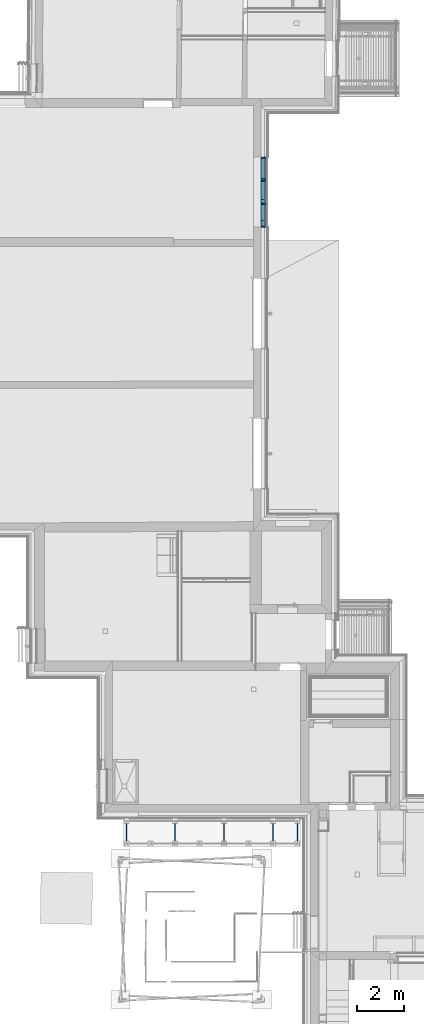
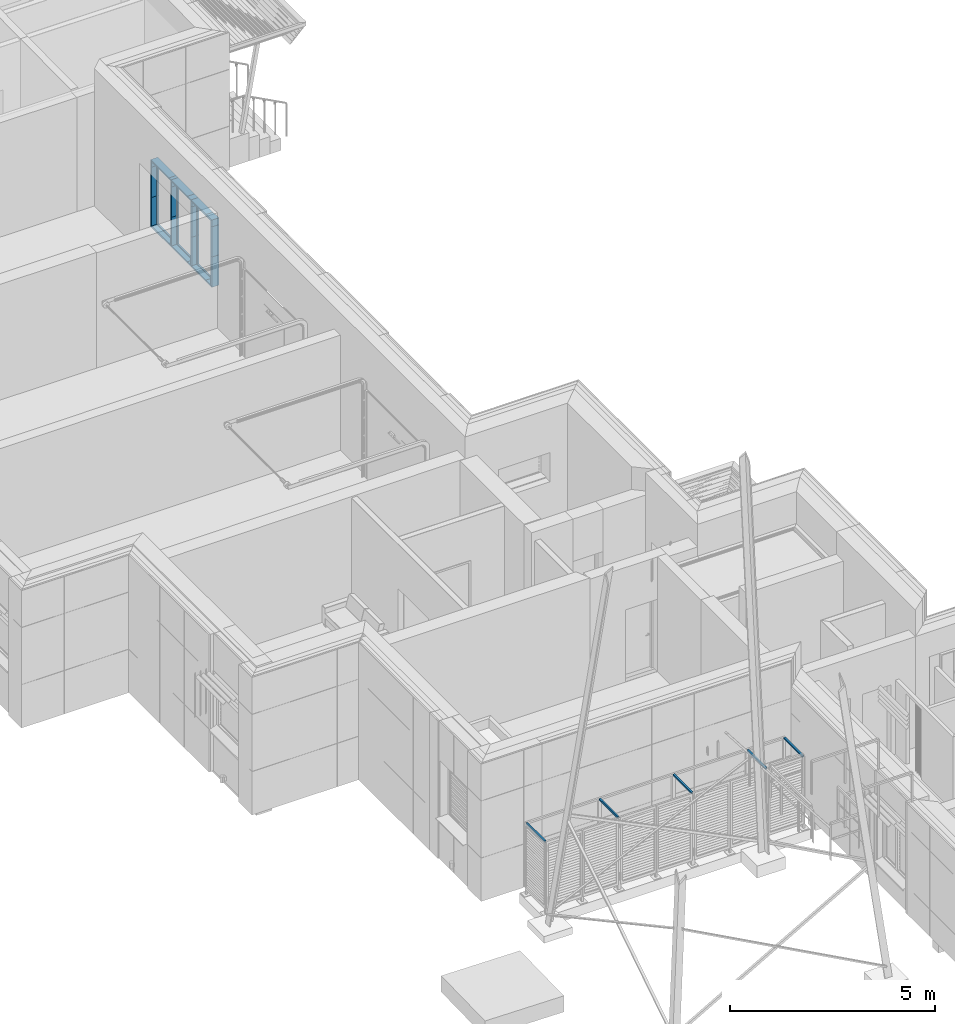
# One storey, part 18 of 418: 24 members, 5 beams, 1 element without a shape of its own.
"""IFC2X3 building model written with IfcOpenShell, lengths in millimetres."""

from ifc_helpers import new_model, entity, si_unit, converted_unit, derived_unit, money_unit, direction, frame, origin_with_axes, place, context, subcontext, project, spatial, polyline, outline, extrude, clip, halfspace, material, type_object, element, aggregate, save


model = new_model("IFC2X3")

# Units and contexts
model_context = context("Model", 3, precision=0.01, world=origin_with_axes(), true_north=direction((0.0, 1.0)))
body_context = subcontext(model_context, "Body", "Model", "MODEL_VIEW")
ifc_project = project(units=[si_unit("LENGTHUNIT", "METRE", prefix="MILLI"), si_unit("AREAUNIT", "SQUARE_METRE"), si_unit("VOLUMEUNIT", "CUBIC_METRE"), converted_unit("PLANEANGLEUNIT", "DEGREE", entity("IfcPlaneAngleMeasure", 0.0174532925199), si_unit("PLANEANGLEUNIT", "RADIAN"), dimensions=[0, 0, 0, 0, 0, 0, 0]), si_unit("SOLIDANGLEUNIT", "STERADIAN"), money_unit("EUR"), converted_unit("TIMEUNIT", "Year", entity("IfcTimeMeasure", 31556926.0), si_unit("TIMEUNIT", "SECOND"), dimensions=[0, 0, 1, 0, 0, 0, 0]), si_unit("MASSUNIT", "GRAM", prefix="KILO"), si_unit("THERMODYNAMICTEMPERATUREUNIT", "DEGREE_CELSIUS"), si_unit("LUMINOUSINTENSITYUNIT", "LUMEN"), si_unit("ENERGYUNIT", "JOULE", prefix="MEGA"), derived_unit("THERMALCONDUCTANCEUNIT", [(si_unit("POWERUNIT", "WATT"), 1), (si_unit("LENGTHUNIT", "METRE"), -1), (si_unit("THERMODYNAMICTEMPERATUREUNIT", "KELVIN"), -1)]), derived_unit("SPECIFICHEATCAPACITYUNIT", [(si_unit("ENERGYUNIT", "JOULE"), 1), (si_unit("MASSUNIT", "GRAM", prefix="KILO"), -1), (si_unit("THERMODYNAMICTEMPERATUREUNIT", "KELVIN"), -1)]), derived_unit("MASSDENSITYUNIT", [(si_unit("MASSUNIT", "GRAM", prefix="KILO"), 1), (si_unit("VOLUMEUNIT", "CUBIC_METRE"), -1)])], contexts=[model_context])

# Site, building, storey
site_placement = place(None, origin_with_axes())
site = spatial("IfcSite", under=ifc_project, at=site_placement, Name="Paldiski mnt 245/1, Tallinn, Harjumaa", CompositionType="COMPLEX")
building_placement = place(site_placement, origin_with_axes())
building = spatial("IfcBuilding", under=site, at=building_placement, Name="RKAS Hoone üldnimetus (kasutust iseloomustav) -> IFC Project Manager -> SOLIBRI", CompositionType="ELEMENT")
storey_placement = place(building_placement, origin_with_axes())
storey = spatial("IfcBuildingStorey", under=building, at=storey_placement, Name="Esimene korrus", CompositionType="ELEMENT", Elevation=0.0)

# Beams
ifc_material_1 = material(Name="VKR-04_Tellis")
beam_type = type_object("IfcBeamType", Name="CFRHS50X50X5 50 x 50", PredefinedType="BEAM")
for number, where, z_axis, x_axis in (
    (1, (-53729.0, -605.710221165, 1970.0), (0.0, 0.0, 1.0), (-1.0, 0.0, 0.0)),
    (2, (-51649.0, -605.710221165, 1970.0), (0.0, 0.0, 1.0), (-1.0, 0.0, 0.0)),
    (3, (-49569.0, -605.710221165, 1970.0), (0.0, 0.0, 1.0), (-1.0, 0.0, 0.0)),
    (4, (-48529.4231231, -1505.71022117, 1970.0), (0.0, 0.0, 1.0), (1.0, 0.0, 0.0)),
    (5, (-55789.3907599, -605.710221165, 1970.0), (0.0, 0.0, 1.0), (-1.0, 0.0, 0.0)),
):
    element("IfcBeam", number, at=place(storey_placement, frame(where, z_axis=z_axis, x_axis=x_axis)), inside=storey, type_object=beam_type, material=ifc_material_1, Name="TALA", ObjectType="BEAM", context=body_context, shape_type="SweptSolid", body=[
        extrude(outline(polyline([(-25.0, -25.0), (25.0, -25.0), (25.0, 25.0), (-25.0, 25.0), (-25.0, -25.0)]), holes=[polyline([(-20.0, -20.0), (-20.0, 20.0), (20.0, 20.0), (20.0, -20.0), (-20.0, -20.0)])]), frame((0.0, 900.0, 0.0), z_axis=(0.0, -1.0, 0.0), x_axis=(1.0, 0.0, 0.0)), (0.0, 0.0, 1.0), 900.0),
    ])

# Curtain wall, members
curtain_wall_type = type_object("IfcCurtainWallType", Name="Curtain Wall Type", PredefinedType="NOTDEFINED")
curtain_wall_placement = place(storey_placement, frame((-49920.0000069, 26094.8964638, 622.996891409), z_axis=(0.0, 0.0, 1.0), x_axis=(1.0, 0.0, 0.0)))
curtain_wall = element("IfcCurtainWall", 6, at=curtain_wall_placement, inside=storey, type_object=curtain_wall_type, Name="KLF-01")
ifc_material_2 = material(Name="ET-04_Alumiinium")
member_type_1 = type_object("IfcMemberType", Name="Boundary Frame 50 x 200", PredefinedType="MULLION")
member_1_placement = place(curtain_wall_placement, frame((0.0, 1526.93220602, 1952.00317093), z_axis=(0.0, 0.0, -1.0), x_axis=(0.0, -1.0, 0.0)))
member_1 = element("IfcMember", 7, at=member_1_placement, type_object=member_type_1, material=ifc_material_2, Name="RF RAAM SERV-521", ObjectType="MULLION", context=body_context, shape_type="Clipping", body=[
    clip(extrude(outline(polyline([(-10.0, 0.0), (-10.0, 25.0), (-150.0, 25.0), (-150.0, -25.0), (50.0, -25.0), (50.0, 25.0), (10.0, 25.0), (10.0, 0.0), (-10.0, 0.0)])), frame((0.0, 0.0, -25.0), z_axis=(0.0, 0.0, 1.0), x_axis=(0.0, -1.0, 0.0)), (0.0, 0.0, 1.0), 200.000051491), halfspace(frame((0.0, 0.0, 0.0), z_axis=(-0.707106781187, 0.0, 0.707106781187), x_axis=(0.0, -1.0, 0.0)), True)),
])
member_2_placement = place(curtain_wall_placement, frame((0.0, 1526.93220602, 1777.00311944), z_axis=(0.0, 0.0, -1.0), x_axis=(0.0, -1.0, 0.0)))
member_2 = element("IfcMember", 8, at=member_2_placement, type_object=member_type_1, material=ifc_material_2, Name="RF RAAM SERV-522", ObjectType="MULLION", context=body_context, shape_type="SweptSolid", body=[
    extrude(outline(polyline([(-10.0, 0.0), (-10.0, 25.0), (-150.0, 25.0), (-150.0, -25.0), (50.0, -25.0), (50.0, 25.0), (10.0, 25.0), (10.0, 0.0), (-10.0, 0.0)])), frame((0.0, 0.0, 0.0), z_axis=(0.0, 0.0, 1.0), x_axis=(0.0, -1.0, 0.0)), (0.0, 0.0, 1.0), 900.0),
])
member_3_placement = place(curtain_wall_placement, frame((0.0, -248.067823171, -6.78094014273e-06), z_axis=(0.0, -1.0, -1.37579629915e-08), x_axis=(0.0, -1.37579629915e-08, 1.0)))
member_3 = element("IfcMember", 9, at=member_3_placement, type_object=member_type_1, material=ifc_material_2, Name="RF RAAM SERV-512", ObjectType="MULLION", context=body_context, shape_type="SweptSolid", body=[
    extrude(outline(polyline([(9.99999999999, -2.47410048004e-06), (9.99999999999, -25.0000024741), (150.0, -25.0000024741), (150.0, 24.9999975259), (-50.0, 24.9999975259), (-50.0, -25.0000024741), (-10.0, -25.0000024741), (-10.0, -2.47410048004e-06), (9.99999999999, -2.47410048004e-06)])), frame((0.0, 0.0, -6.87897738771e-07), z_axis=(0.0, 0.0, 1.0), x_axis=(0.0, 1.0, 0.0)), (0.0, 0.0, 1.0), 179.8304368),
])
member_4_placement = place(curtain_wall_placement, frame((0.0, -427.898258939, -9.25504062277e-06), z_axis=(0.0, -1.0, -1.3757963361e-08), x_axis=(0.0, -1.3757963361e-08, 1.0)))
member_4 = element("IfcMember", 10, at=member_4_placement, type_object=member_type_1, material=ifc_material_2, Name="RF RAAM SERV-512", ObjectType="MULLION", context=body_context, shape_type="SweptSolid", body=[
    extrude(outline(polyline([(9.99999999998, -9.90806647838e-06), (9.99999999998, -25.0000099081), (150.0, -25.0000099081), (150.0, 24.9999900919), (-50.0, 24.9999900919), (-50.0, -25.0000099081), (-10.0, -25.0000099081), (-10.0, -9.90806647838e-06), (9.99999999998, -9.90806647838e-06)])), frame((0.0, 0.0, -3.43955974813e-07), z_axis=(0.0, 0.0, 1.0), x_axis=(0.0, 1.0, 0.0)), (0.0, 0.0, 1.0), 720.169565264),
])
member_5_placement = place(curtain_wall_placement, frame((0.0, 1526.93220602, 9.28984000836e-07), z_axis=(0.0, -1.0, -8.81134158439e-09), x_axis=(0.0, -8.81134158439e-09, 1.0)))
member_5 = element("IfcMember", 11, at=member_5_placement, type_object=member_type_1, material=ifc_material_2, Name="RF RAAM SERV-510", ObjectType="MULLION", context=body_context, shape_type="Clipping", body=[
    clip(extrude(outline(polyline([(9.99999999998, -7.70992414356e-06), (9.99999999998, -25.0000077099), (150.0, -25.0000077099), (150.0, 24.9999922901), (-50.0, 24.9999922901), (-50.0, -25.0000077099), (-10.0, -25.0000077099), (-10.0, -7.70992414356e-06), (9.99999999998, -7.70992414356e-06)])), frame((0.0, 0.0, -24.9999995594), z_axis=(0.0, 0.0, 1.0), x_axis=(0.0, 1.0, 0.0)), (0.0, 0.0, 1.0), 900.000029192), halfspace(frame((0.0, 0.0, 0.0), z_axis=(-0.707106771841, 0.0, 0.707106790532), x_axis=(0.0, -1.0, 0.0)), True)),
])
member_6_placement = place(curtain_wall_placement, frame((0.0, -1148.06782317, -1.91631071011e-05), z_axis=(0.0, -1.0, 0.0), x_axis=(0.0, 0.0, 1.0)))
member_6 = element("IfcMember", 12, at=member_6_placement, type_object=member_type_1, material=ifc_material_2, Name="RF RAAM SERV-513", ObjectType="MULLION", context=body_context, shape_type="Clipping", body=[
    clip(extrude(outline(polyline([(9.99999999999, 0.0), (9.99999999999, -25.0), (150.0, -25.0), (150.0, 25.0), (-50.0, 25.0), (-50.0, -25.0), (-10.0, -25.0), (-10.0, 0.0), (9.99999999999, 0.0)])), frame((0.0, 0.0, -3.43955974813e-07), z_axis=(0.0, 0.0, 1.0), x_axis=(0.0, 1.0, 0.0)), (0.0, 0.0, 1.0), 280.000072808), halfspace(frame((127.500036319, 0.0, 127.500037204), z_axis=(-0.70710677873, 0.0, -0.707106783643), x_axis=(0.0, 1.0, 0.0)), True)),
])
member_7_placement = place(curtain_wall_placement, frame((0.0, -1403.0679019, 1952.0031662), z_axis=(0.0, 1.0, 1.85567895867e-08), x_axis=(0.0, 1.85567895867e-08, -1.0)))
member_7 = element("IfcMember", 13, at=member_7_placement, type_object=member_type_1, material=ifc_material_2, Name="RF RAAM SERV-517", ObjectType="MULLION", context=body_context, shape_type="Clipping", body=[
    clip(extrude(outline(polyline([(-10.0, 4.73198280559e-06), (-10.0, 25.000004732), (-150.0, 25.000004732), (-150.0, -24.999995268), (50.0, -24.999995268), (50.0, 25.000004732), (9.99999999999, 25.000004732), (9.99999999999, 4.73198280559e-06), (-10.0, 4.73198280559e-06)])), frame((0.0, 0.0, -24.9999990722), z_axis=(0.0, 0.0, 1.0), x_axis=(0.0, -1.0, 0.0)), (0.0, 0.0, 1.0), 280.00007873), halfspace(frame((0.0, 0.0, 0.0), z_axis=(-0.707106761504, 0.0, 0.707106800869), x_axis=(0.0, -1.0, 0.0)), True)),
])
member_8_placement = place(curtain_wall_placement, frame((0.0, -1403.0679019, 1777.00311944), z_axis=(0.0, 0.0, 1.0), x_axis=(0.0, 1.0, 0.0)))
member_8 = element("IfcMember", 14, at=member_8_placement, type_object=member_type_1, material=ifc_material_2, Name="RF RAAM SERV-516", ObjectType="MULLION", context=body_context, shape_type="Clipping", body=[
    clip(extrude(outline(polyline([(-10.0, 0.0), (-10.0, 25.0), (-150.0, 25.0), (-150.0, -25.0), (50.0, -25.0), (50.0, 25.0), (10.0, 25.0), (10.0, 0.0), (-10.0, 0.0)])), frame((0.0, 0.0, 0.0), z_axis=(0.0, 0.0, 1.0), x_axis=(0.0, -1.0, 0.0)), (0.0, 0.0, 1.0), 200.000046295), halfspace(frame((87.5000233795, 0.0, 87.5000250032), z_axis=(-0.707106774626, 0.0, -0.707106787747), x_axis=(0.0, 1.0, 0.0)), True)),
])
member_9_placement = place(curtain_wall_placement, frame((0.0, 651.932176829, 1952.00317093), z_axis=(0.0, 1.0, 0.0), x_axis=(0.0, 0.0, -1.0)))
member_9 = element("IfcMember", 15, at=member_9_placement, type_object=member_type_1, material=ifc_material_2, Name="RF RAAM SERV-520", ObjectType="MULLION", context=body_context, shape_type="Clipping", body=[
    clip(extrude(outline(polyline([(-10.0, 0.0), (-10.0, 25.0), (-150.0, 25.0), (-150.0, -25.0), (50.0, -25.0), (50.0, 25.0), (9.99999999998, 25.0), (9.99999999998, 0.0), (-10.0, 0.0)])), frame((0.0, 0.0, 0.0), z_axis=(0.0, 0.0, 1.0), x_axis=(0.0, -1.0, 0.0)), (0.0, 0.0, 1.0), 900.000029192), halfspace(frame((437.500014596, 0.0, 437.500014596), z_axis=(-0.707106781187, 0.0, -0.707106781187), x_axis=(0.0, 1.0, 0.0)), True)),
])
member_10_placement = place(curtain_wall_placement, frame((0.0, -248.067823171, 1952.00317093), z_axis=(0.0, 1.0, 0.0), x_axis=(0.0, 0.0, -1.0)))
member_10 = element("IfcMember", 16, at=member_10_placement, type_object=member_type_1, material=ifc_material_2, Name="RF RAAM SERV-519", ObjectType="MULLION", context=body_context, shape_type="SweptSolid", body=[
    extrude(outline(polyline([(-10.0, 0.0), (-10.0, 25.0), (-150.0, 25.0), (-150.0, -25.0), (50.0, -25.0), (50.0, 25.0), (9.99999999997, 25.0), (9.99999999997, 0.0), (-10.0, 0.0)])), frame((0.0, 0.0, 0.0), z_axis=(0.0, 0.0, 1.0), x_axis=(0.0, -1.0, 0.0)), (0.0, 0.0, 1.0), 799.999990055),
])
member_11_placement = place(curtain_wall_placement, frame((0.0, -1403.0679019, 877.003119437), z_axis=(0.0, 0.0, 1.0), x_axis=(0.0, 1.0, 0.0)))
member_11 = element("IfcMember", 17, at=member_11_placement, type_object=member_type_1, material=ifc_material_2, Name="RF RAAM SERV-515", ObjectType="MULLION", context=body_context, shape_type="SweptSolid", body=[
    extrude(outline(polyline([(-10.0, 0.0), (-10.0, 25.0), (-150.0, 25.0), (-150.0, -25.0), (50.0, -25.0), (50.0, 25.0), (10.0, 25.0), (10.0, 0.0), (-10.0, 0.0)])), frame((0.0, 0.0, 0.0), z_axis=(0.0, 0.0, 1.0), x_axis=(0.0, -1.0, 0.0)), (0.0, 0.0, 1.0), 900.0),
])
member_12_placement = place(curtain_wall_placement, frame((0.0, -1148.06782317, 1952.00317093), z_axis=(0.0, 1.0, 0.0), x_axis=(0.0, 0.0, -1.0)))
member_12 = element("IfcMember", 18, at=member_12_placement, type_object=member_type_1, material=ifc_material_2, Name="RF RAAM SERV-518", ObjectType="MULLION", context=body_context, shape_type="SweptSolid", body=[
    extrude(outline(polyline([(-10.0, 0.0), (-10.0, 25.0), (-150.0, 25.0), (-150.0, -25.0), (50.0, -25.0), (50.0, 25.0), (9.99999999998, 25.0), (9.99999999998, 0.0), (-10.0, 0.0)])), frame((0.0, 0.0, 0.0), z_axis=(0.0, 0.0, 1.0), x_axis=(0.0, -1.0, 0.0)), (0.0, 0.0, 1.0), 720.169564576),
])
member_13_placement = place(curtain_wall_placement, frame((0.0, 651.932176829, -6.78094014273e-06), z_axis=(0.0, -1.0, 0.0), x_axis=(0.0, 0.0, 1.0)))
member_13 = element("IfcMember", 19, at=member_13_placement, type_object=member_type_1, material=ifc_material_2, Name="RF RAAM SERV-511", ObjectType="MULLION", context=body_context, shape_type="SweptSolid", body=[
    extrude(outline(polyline([(9.99999999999, 0.0), (9.99999999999, -25.0), (150.0, -25.0), (150.0, 25.0), (-50.0, 25.0), (-50.0, -25.0), (-10.0, -25.0), (-10.0, 0.0), (9.99999999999, 0.0)])), frame((0.0, 0.0, -2.20286011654e-07), z_axis=(0.0, 0.0, 1.0), x_axis=(0.0, 1.0, 0.0)), (0.0, 0.0, 1.0), 100.000003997),
])
member_14_placement = place(curtain_wall_placement, frame((0.0, 1526.93220602, 877.003119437), z_axis=(0.0, 0.0, -1.0), x_axis=(0.0, -1.0, 0.0)))
member_14 = element("IfcMember", 20, at=member_14_placement, type_object=member_type_1, material=ifc_material_2, Name="RF RAAM SERV-509", ObjectType="MULLION", context=body_context, shape_type="Clipping", body=[
    clip(extrude(outline(polyline([(-10.0, 0.0), (-10.0, 25.0), (-150.0, 25.0), (-150.0, -25.0), (50.0, -25.0), (50.0, 25.0), (10.0, 25.0), (10.0, 0.0), (-10.0, 0.0)])), frame((0.0, 0.0, 0.0), z_axis=(0.0, 0.0, 1.0), x_axis=(0.0, -1.0, 0.0)), (0.0, 0.0, 1.0), 902.003118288), halfspace(frame((438.501559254, 0.0, 438.501563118), z_axis=(-0.707106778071, 0.0, -0.707106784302), x_axis=(0.0, 1.0, 0.0)), True)),
])
member_15_placement = place(curtain_wall_placement, frame((0.0, 551.932173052, -6.78094014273e-06), z_axis=(0.0, -1.0, 0.0), x_axis=(0.0, 0.0, 1.0)))
member_15 = element("IfcMember", 21, at=member_15_placement, type_object=member_type_1, material=ifc_material_2, Name="RF RAAM SERV-511", ObjectType="MULLION", context=body_context, shape_type="SweptSolid", body=[
    extrude(outline(polyline([(9.99999999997, 0.0), (9.99999999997, -25.0), (150.0, -25.0), (150.0, 25.0), (-50.0, 25.0), (-50.0, -25.0), (-10.0, -25.0), (-10.0, 0.0), (9.99999999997, 0.0)])), frame((0.0, 0.0, 0.0), z_axis=(0.0, 0.0, 1.0), x_axis=(0.0, 1.0, 0.0)), (0.0, 0.0, 1.0), 799.999990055),
])
member_16_placement = place(curtain_wall_placement, frame((0.0, -1403.06789581, -1.91631071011e-05), z_axis=(0.0, -6.9475842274e-09, 1.0), x_axis=(0.0, 1.0, 6.9475842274e-09)))
member_16 = element("IfcMember", 22, at=member_16_placement, type_object=member_type_1, material=ifc_material_2, Name="RF RAAM SERV-514", ObjectType="MULLION", context=body_context, shape_type="Clipping", body=[
    clip(extrude(outline(polyline([(-10.0, 6.0930496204e-06), (-10.0, 25.000006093), (-150.0, 25.0000060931), (-150.0, -24.9999939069), (50.0, -24.9999939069), (50.0, 25.0000060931), (10.0, 25.0000060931), (10.0, 6.09305317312e-06), (-10.0, 6.0930496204e-06)])), frame((0.0, 0.0, -24.9999996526), z_axis=(0.0, 0.0, 1.0), x_axis=(0.0, -1.0, 0.0)), (0.0, 0.0, 1.0), 902.0031386), halfspace(frame((0.0, 0.0, 0.0), z_axis=(-0.707106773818, 0.0, 0.707106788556), x_axis=(0.0, -1.0, 0.0)), True)),
])
member_17_placement = place(curtain_wall_placement, frame((0.0, 551.932166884, 1952.00317093), z_axis=(0.0, 1.0, 0.0), x_axis=(0.0, 0.0, -1.0)))
member_17 = element("IfcMember", 23, at=member_17_placement, type_object=member_type_1, material=ifc_material_2, Name="RF RAAM SERV-519", ObjectType="MULLION", context=body_context, shape_type="SweptSolid", body=[
    extrude(outline(polyline([(-10.0, 0.0), (-10.0, 25.0), (-150.0, 25.0), (-150.0, -25.0), (50.0, -25.0), (50.0, 25.0), (9.99999999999, 25.0), (9.99999999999, 0.0), (-10.0, 0.0)])), frame((0.0, 0.0, -2.20293117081e-07), z_axis=(0.0, 0.0, 1.0), x_axis=(0.0, -1.0, 0.0)), (0.0, 0.0, 1.0), 100.000003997),
])
member_18_placement = place(curtain_wall_placement, frame((0.0, -427.898258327, 1952.00317093), z_axis=(0.0, 1.0, 0.0), x_axis=(0.0, 0.0, -1.0)))
member_18 = element("IfcMember", 24, at=member_18_placement, type_object=member_type_1, material=ifc_material_2, Name="RF RAAM SERV-518", ObjectType="MULLION", context=body_context, shape_type="SweptSolid", body=[
    extrude(outline(polyline([(-10.0, 0.0), (-10.0, 25.0), (-150.0, 25.0), (-150.0, -25.0), (50.0, -25.0), (50.0, 25.0), (9.99999999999, 25.0), (9.99999999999, 0.0), (-10.0, 0.0)])), frame((0.0, 0.0, -3.43955974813e-07), z_axis=(0.0, 0.0, 1.0), x_axis=(0.0, -1.0, 0.0)), (0.0, 0.0, 1.0), 179.830436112),
])
member_type_2 = type_object("IfcMemberType", Name="Mullion Frame 50 x 200", PredefinedType="MULLION")
member_19_placement = place(curtain_wall_placement, frame((0.0, 551.932173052, 877.003119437), z_axis=(0.0, -5.73782206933e-09, 1.0), x_axis=(0.0, 1.0, 5.73782206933e-09)))
member_19 = element("IfcMember", 25, at=member_19_placement, type_object=member_type_2, material=ifc_material_2, Name="RF RAAM VERT-344", ObjectType="MULLION", context=body_context, shape_type="SweptSolid", body=[
    extrude(outline(polyline([(-10.0, 25.000005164), (-150.0, 25.000005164), (-150.0, -24.999994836), (-10.0, -24.999994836), (-10.0, 25.000005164)])), frame((0.0, 0.0, -2.86890955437e-07), z_axis=(0.0, 0.0, 1.0), x_axis=(0.0, -1.0, 0.0)), (0.0, 0.0, 1.0), 900.00000043),
    extrude(outline(polyline([(10.0, -24.999994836), (50.0, -24.999994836), (50.0, 25.000005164), (9.99999999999, 25.000005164), (10.0, -24.999994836)])), frame((0.0, 0.0, -2.86890955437e-07), z_axis=(0.0, 0.0, 1.0), x_axis=(0.0, -1.0, 0.0)), (0.0, 0.0, 1.0), 900.00000043),
])
member_20_placement = place(curtain_wall_placement, frame((0.0, 551.932167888, 1777.00311944), z_axis=(0.0, -5.73783391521e-09, 1.0), x_axis=(0.0, 1.0, 5.73783391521e-09)))
member_20 = element("IfcMember", 26, at=member_20_placement, type_object=member_type_2, material=ifc_material_2, Name="RF RAAM VERT-353", ObjectType="MULLION", context=body_context, shape_type="SweptSolid", body=[
    extrude(outline(polyline([(-10.0, 25.0000008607), (-150.0, 25.0000008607), (-150.0, -24.9999991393), (-10.0, -24.9999991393), (-10.0, 25.0000008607)])), frame((0.0, 0.0, -1.43446143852e-07), z_axis=(0.0, 0.0, 1.0), x_axis=(0.0, -1.0, 0.0)), (0.0, 0.0, 1.0), 150.00005172),
    extrude(outline(polyline([(10.0, -24.9999991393), (50.0, -24.9999991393), (50.0, 25.0000008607), (9.99999999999, 25.0000008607), (10.0, -24.9999991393)])), frame((0.0, 0.0, -1.43446143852e-07), z_axis=(0.0, 0.0, 1.0), x_axis=(0.0, -1.0, 0.0)), (0.0, 0.0, 1.0), 150.000052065),
])
member_21_placement = place(curtain_wall_placement, frame((0.0, -427.898258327, 1777.00311944), z_axis=(0.0, 0.0, 1.0), x_axis=(0.0, 1.0, 0.0)))
member_21 = element("IfcMember", 27, at=member_21_placement, type_object=member_type_2, material=ifc_material_2, Name="RF RAAM VERT-343", ObjectType="MULLION", context=body_context, shape_type="SweptSolid", body=[
    extrude(outline(polyline([(-10.0, 25.0), (-150.0, 25.0), (-150.0, -25.0), (-10.0, -25.0), (-10.0, 25.0)])), frame((0.0, 0.0, 0.0), z_axis=(0.0, 0.0, 1.0), x_axis=(0.0, -1.0, 0.0)), (0.0, 0.0, 1.0), 150.000051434),
    extrude(outline(polyline([(10.0, -25.0), (50.0, -25.0), (50.0, 25.0), (10.0, 25.0), (10.0, -25.0)])), frame((0.0, 0.0, 0.0), z_axis=(0.0, 0.0, 1.0), x_axis=(0.0, -1.0, 0.0)), (0.0, 0.0, 1.0), 150.000051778),
])
member_22_placement = place(curtain_wall_placement, frame((0.0, -427.898258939, 877.003119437), z_axis=(0.0, 6.80167033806e-10, 1.0), x_axis=(0.0, 1.0, -6.80167033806e-10)))
member_22 = element("IfcMember", 28, at=member_22_placement, type_object=member_type_2, material=ifc_material_2, Name="RF RAAM VERT-344", ObjectType="MULLION", context=body_context, shape_type="SweptSolid", body=[
    extrude(outline(polyline([(-10.0, 24.9999993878), (-150.0, 24.9999993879), (-150.0, -25.0000006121), (-10.0, -25.0000006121), (-10.0, 24.9999993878)])), frame((0.0, 0.0, -1.60449653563e-07), z_axis=(0.0, 0.0, 1.0), x_axis=(0.0, -1.0, 0.0)), (0.0, 0.0, 1.0), 900.000000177),
    extrude(outline(polyline([(10.0, -25.0000006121), (50.0, -25.0000006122), (50.0, 24.9999993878), (10.0, 24.9999993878), (10.0, -25.0000006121)])), frame((0.0, 0.0, -1.60449653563e-07), z_axis=(0.0, 0.0, 1.0), x_axis=(0.0, -1.0, 0.0)), (0.0, 0.0, 1.0), 900.000000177),
])
member_23_placement = place(curtain_wall_placement, frame((0.0, -427.898258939, -9.25504062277e-06), z_axis=(0.0, 0.0, 1.0), x_axis=(0.0, 1.0, 0.0)))
member_23 = element("IfcMember", 29, at=member_23_placement, type_object=member_type_2, material=ifc_material_2, Name="RF RAAM VERT-341", ObjectType="MULLION", context=body_context, shape_type="SweptSolid", body=[
    extrude(outline(polyline([(-10.0, 25.0), (-150.0, 25.0), (-150.0, -25.0), (-10.0, -25.0), (-10.0, 25.0)])), frame((0.0, 0.0, 25.0000001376), z_axis=(0.0, 0.0, 1.0), x_axis=(0.0, -1.0, 0.0)), (0.0, 0.0, 1.0), 852.003128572),
    extrude(outline(polyline([(10.0, -25.0), (50.0, -25.0), (50.0, 25.0), (10.0, 25.0), (10.0, -25.0)])), frame((0.0, 0.0, 24.9999993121), z_axis=(0.0, 0.0, 1.0), x_axis=(0.0, -1.0, 0.0)), (0.0, 0.0, 1.0), 852.003129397),
])
member_24_placement = place(curtain_wall_placement, frame((0.0, 551.932173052, -6.78094014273e-06), z_axis=(0.0, 0.0, 1.0), x_axis=(0.0, 1.0, 0.0)))
member_24 = element("IfcMember", 30, at=member_24_placement, type_object=member_type_2, material=ifc_material_2, Name="RF RAAM VERT-341", ObjectType="MULLION", context=body_context, shape_type="SweptSolid", body=[
    extrude(outline(polyline([(-10.0, 25.0), (-150.0, 25.0), (-150.0, -25.0), (-10.0, -25.0), (-10.0, 25.0)])), frame((0.0, 0.0, 25.0000001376), z_axis=(0.0, 0.0, 1.0), x_axis=(0.0, -1.0, 0.0)), (0.0, 0.0, 1.0), 852.003128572),
    extrude(outline(polyline([(10.0, -25.0), (50.0, -25.0), (50.0, 25.0), (9.99999999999, 25.0), (10.0, -25.0)])), frame((0.0, 0.0, 24.9999993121), z_axis=(0.0, 0.0, 1.0), x_axis=(0.0, -1.0, 0.0)), (0.0, 0.0, 1.0), 852.003129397),
])
aggregate(curtain_wall, [member_1, member_2, member_3, member_19, member_4, member_5, member_6, member_7, member_8, member_20, member_9, member_21, member_10, member_11, member_22, member_12, member_23, member_13, member_24, member_14, member_15, member_16, member_17, member_18])

save(model, "model.ifc")
